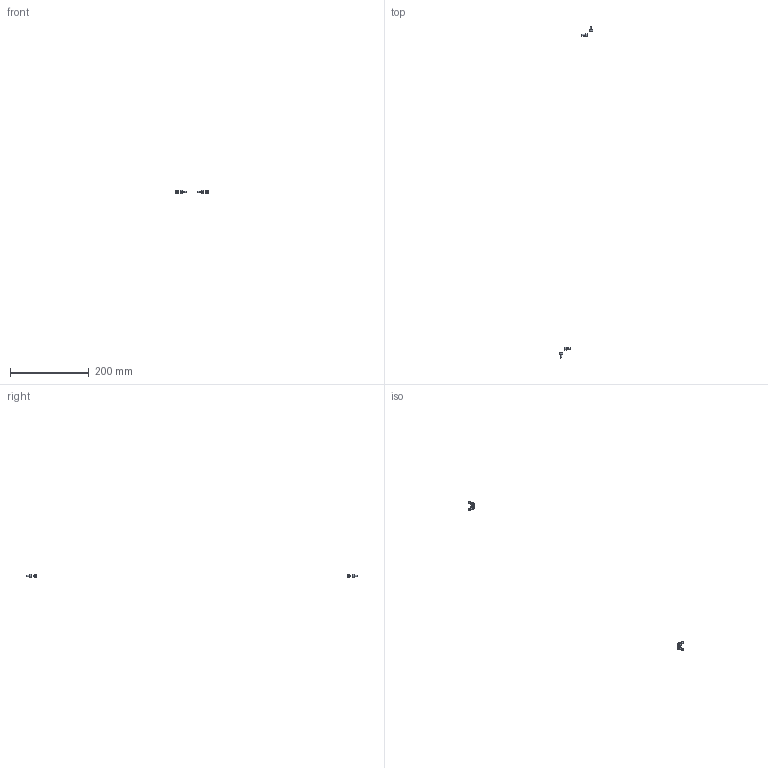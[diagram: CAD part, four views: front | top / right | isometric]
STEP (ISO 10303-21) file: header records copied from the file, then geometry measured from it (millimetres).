
FILE_DESCRIPTION(/* description */ (''),/* implementation_level */ '2;1');
FILE_NAME(/* name */ '4.frame-door#4.2#CB5-10',/* time_stamp */ '2014-12-01T20:12:32+01:00',/* author */ (''),/* organization */ (''),/* preprocessor_version */ 'ST-DEVELOPER v14',/* originating_system */ '',/* authorisation */ '');
FILE_SCHEMA (('AUTOMOTIVE_DESIGN'));
Length unit declared in the file: millimetre
Products named in the file (2): Document; screw DIN912-like, M5x10
Assembly tree (4 placements, depth 2):
  Document
    screw DIN912-like, M5x10  x4
Bounding box: 84.47 x 841 x 8.5 mm (x, y, z)
Volume: 1753.3 mm3; surface area: 1705.2 mm2
Topology: 4 solids, 4 shells, 100 faces, 224 edges, 132 vertices
Faces by surface type: plane 60, bspline 40
Entity records: 1429 total; most frequent: CARTESIAN_POINT 635, B_SPLINE_CURVE_WITH_KNOTS 126, ORIENTED_EDGE 108, PCURVE 108, DEFINITIONAL_REPRESENTATION 108, SURFACE_CURVE 54, EDGE_CURVE 54, VERTEX_POINT 33
